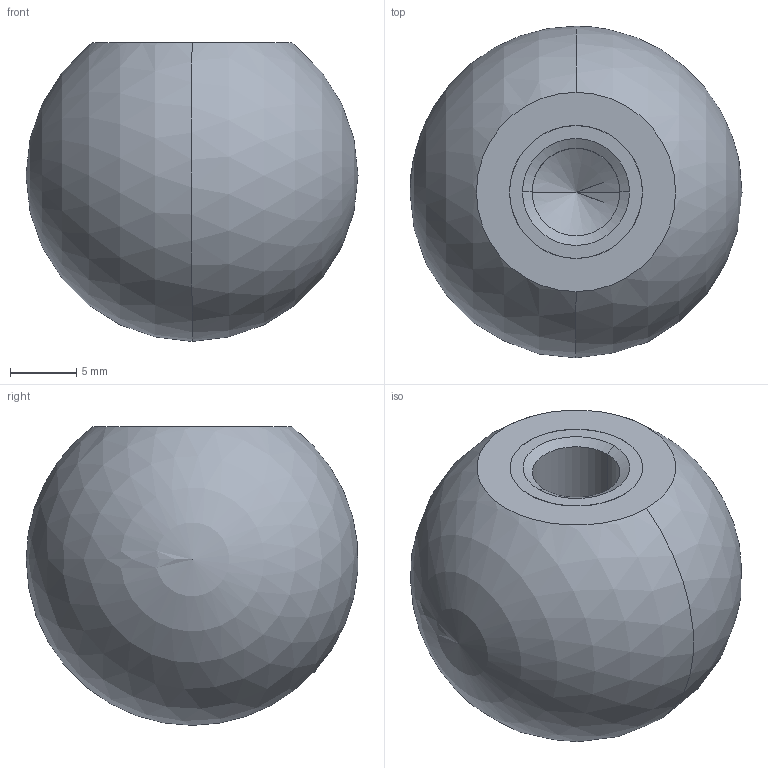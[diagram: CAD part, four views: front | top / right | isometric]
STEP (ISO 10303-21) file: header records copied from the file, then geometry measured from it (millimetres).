
FILE_DESCRIPTION (( 'STEP AP214' ), '1' );
FILE_NAME ('319-KU-25-M8-E.step', '2023-12-18T11:10:06', ( '' ), ( '' ), 'SwSTEP 2.0', 'SolidWorks 2022', '' );
FILE_SCHEMA (( 'AUTOMOTIVE_DESIGN' ));
Length unit declared in the file: millimetre
Products named in the file (1): 319-KU-25-M8-E
Bounding box: 25 x 24.97 x 22.5 mm (x, y, z)
Volume: 7515.6 mm3; surface area: 2192.9 mm2
Topology: 1 solids, 1 shells, 15 faces, 35 edges, 21 vertices
Faces by surface type: cylinder 6, cone 4, plane 3, sphere 2
Entity records: 495 total; most frequent: DIRECTION 78, CARTESIAN_POINT 62, ORIENTED_EDGE 56, AXIS2_PLACEMENT_3D 34, EDGE_CURVE 28, VERTEX_POINT 18, EDGE_LOOP 18, CIRCLE 18
